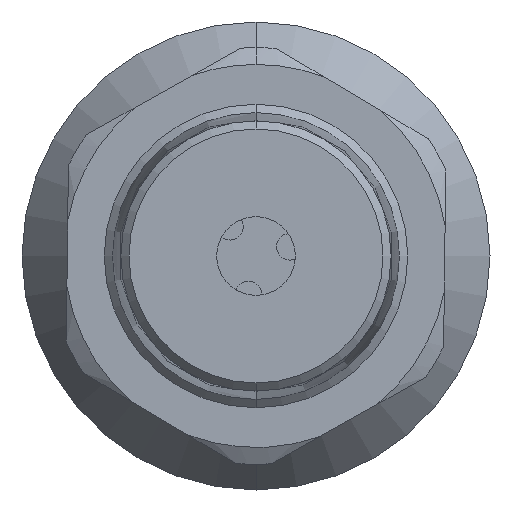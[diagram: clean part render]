
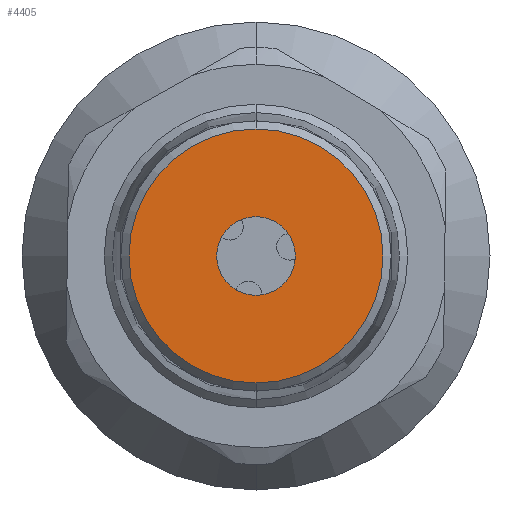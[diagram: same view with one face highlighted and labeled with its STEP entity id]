
A CAD part, front view. The second image highlights one B-rep face of the part: STEP entity #4405.
In plain terms, the highlighted planar face has unit normal (0, -1, 0).
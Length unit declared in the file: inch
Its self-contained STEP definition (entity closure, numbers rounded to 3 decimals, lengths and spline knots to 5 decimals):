
#9 = AXIS2_PLACEMENT_3D ( 'NONE', #5899, #11005, #8828 ) ;
#225 = CIRCLE ( 'NONE', #9, 0.09843 ) ;
#546 = CIRCLE ( 'NONE', #12270, 0.31791 ) ;
#1072 = CIRCLE ( 'NONE', #9142, 0.09843 ) ;
#1477 = FACE_OUTER_BOUND ( 'NONE', #11861, .T. ) ;
#1881 = CARTESIAN_POINT ( 'NONE',  ( 0., 0., 0. ) ) ;
#2085 = CARTESIAN_POINT ( 'NONE',  ( 0., 0., 0.09843 ) ) ;
#2135 = EDGE_CURVE ( 'NONE', #5621, #10740, #225, .T. ) ;
#2614 = CARTESIAN_POINT ( 'NONE',  ( 0.09843, 0., 0. ) ) ;
#2859 = VERTEX_POINT ( 'NONE', #8909 ) ;
#3463 = ORIENTED_EDGE ( 'NONE', *, *, #9287, .T. ) ;
#4256 = DIRECTION ( 'NONE',  ( 0., -1., 0. ) ) ;
#4405 = ADVANCED_FACE ( 'NONE', ( #1477, #5684 ), #10275, .F. ) ;
#4738 = CARTESIAN_POINT ( 'NONE',  ( 0., 0., -0.09843 ) ) ;
#5290 = AXIS2_PLACEMENT_3D ( 'NONE', #2614, #13350, #11409 ) ;
#5542 = CARTESIAN_POINT ( 'NONE',  ( 0., 0., 0. ) ) ;
#5621 = VERTEX_POINT ( 'NONE', #2085 ) ;
#5684 = FACE_BOUND ( 'NONE', #10193, .T. ) ;
#5899 = CARTESIAN_POINT ( 'NONE',  ( 0., 0., 0. ) ) ;
#7262 = AXIS2_PLACEMENT_3D ( 'NONE', #11945, #4256, #9604 ) ;
#7713 = CARTESIAN_POINT ( 'NONE',  ( 0., 0., 0.31791 ) ) ;
#8399 = ORIENTED_EDGE ( 'NONE', *, *, #12610, .T. ) ;
#8559 = DIRECTION ( 'NONE',  ( 0., 0., 1. ) ) ;
#8828 = DIRECTION ( 'NONE',  ( 0., 0., 1. ) ) ;
#8909 = CARTESIAN_POINT ( 'NONE',  ( 0., 0., -0.31791 ) ) ;
#8920 = ORIENTED_EDGE ( 'NONE', *, *, #12358, .T. ) ;
#9142 = AXIS2_PLACEMENT_3D ( 'NONE', #5542, #10764, #9755 ) ;
#9287 = EDGE_CURVE ( 'NONE', #9819, #2859, #546, .T. ) ;
#9604 = DIRECTION ( 'NONE',  ( 0., 0., 1. ) ) ;
#9704 = ORIENTED_EDGE ( 'NONE', *, *, #2135, .T. ) ;
#9755 = DIRECTION ( 'NONE',  ( 0., 0., 1. ) ) ;
#9819 = VERTEX_POINT ( 'NONE', #7713 ) ;
#10193 = EDGE_LOOP ( 'NONE', ( #9704, #8920 ) ) ;
#10275 = PLANE ( 'NONE',  #5290 ) ;
#10740 = VERTEX_POINT ( 'NONE', #4738 ) ;
#10764 = DIRECTION ( 'NONE',  ( 0., 1., 0. ) ) ;
#11005 = DIRECTION ( 'NONE',  ( 0., 1., 0. ) ) ;
#11409 = DIRECTION ( 'NONE',  ( 0., 0., 1. ) ) ;
#11861 = EDGE_LOOP ( 'NONE', ( #3463, #8399 ) ) ;
#11878 = CIRCLE ( 'NONE', #7262, 0.31791 ) ;
#11945 = CARTESIAN_POINT ( 'NONE',  ( 0., 0., 0. ) ) ;
#12270 = AXIS2_PLACEMENT_3D ( 'NONE', #1881, #13827, #8559 ) ;
#12358 = EDGE_CURVE ( 'NONE', #10740, #5621, #1072, .T. ) ;
#12610 = EDGE_CURVE ( 'NONE', #2859, #9819, #11878, .T. ) ;
#13350 = DIRECTION ( 'NONE',  ( 0., 1., 0. ) ) ;
#13827 = DIRECTION ( 'NONE',  ( 0., -1., 0. ) ) ;
